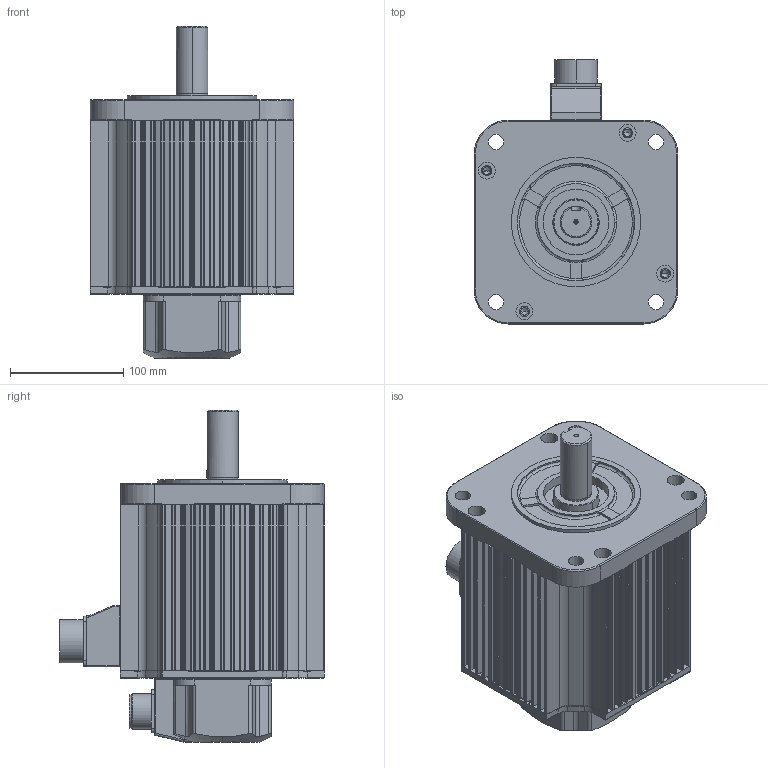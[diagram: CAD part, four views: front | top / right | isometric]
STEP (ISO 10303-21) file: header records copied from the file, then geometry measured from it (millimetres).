
FILE_DESCRIPTION (( 'STEP AP214' ), '1' );
FILE_NAME ('KAND-40B¡à1B2.STEP', '2026-09-12T03:03:59', ( '' ), ( '' ), 'SwSTEP 2.0', 'SolidWorks 2023', '' );
FILE_SCHEMA (( 'AUTOMOTIVE_DESIGN' ));
Length unit declared in the file: millimetre
Products named in the file (11): MS3102A 20-29P; 10050908 CONNECTOR BOX_MS22 or MS24; 1005052200 ENCODER COVER; 10050523 GASKET_돌출형; Ø28-KEY8X51; 10050907 RUBBER SEAL_MS22 or MS24; □180 FLANGE; □180-146.5mm; MS3102A 24_표준; □180 BRACKET_BR; KAND-40B□1B2
Assembly tree (10 placements, depth 2):
  KAND-40B□1B2
    □180-146.5mm
    □180 FLANGE
    □180 BRACKET_BR
    1005052200 ENCODER COVER
    10050523 GASKET_돌출형
    10050907 RUBBER SEAL_MS22 or MS24
    10050908 CONNECTOR BOX_MS22 or MS24
    MS3102A 20-29P
    MS3102A 24_표준
    Ø28-KEY8X51
Bounding box: 180 x 233.62 x 293.2 mm (x, y, z)
Volume: 1516981.9 mm3; surface area: 534605.2 mm2
Topology: 10 solids, 10 shells, 1746 faces, 4794 edges, 3122 vertices
Faces by surface type: cylinder 912, plane 605, torus 122, cone 70, bspline 35, sphere 2
Entity records: 59069 total; most frequent: CARTESIAN_POINT 13286, DIRECTION 9926, ORIENTED_EDGE 9516, EDGE_CURVE 4758, AXIS2_PLACEMENT_3D 3818, VERTEX_POINT 3122, VECTOR 2290, LINE 2290
